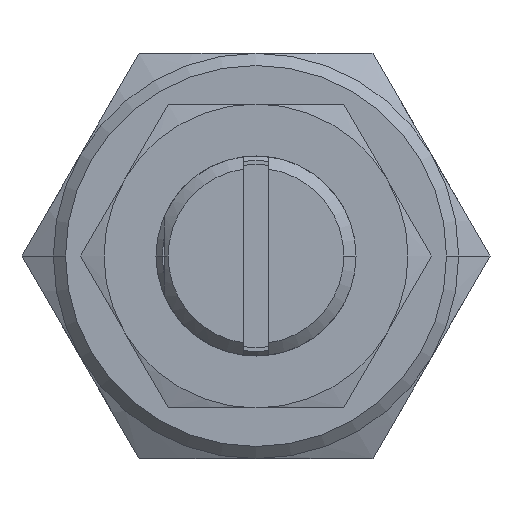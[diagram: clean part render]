
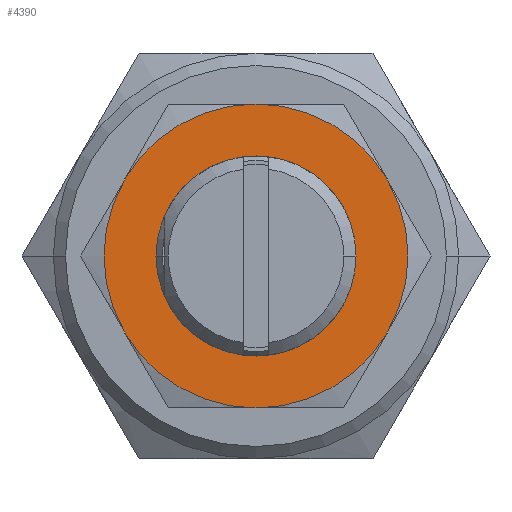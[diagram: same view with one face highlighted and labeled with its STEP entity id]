
A CAD part, left-side view. The second image highlights one B-rep face of the part: STEP entity #4390.
In plain terms, the highlighted planar face has unit normal (-1, 0, 0).
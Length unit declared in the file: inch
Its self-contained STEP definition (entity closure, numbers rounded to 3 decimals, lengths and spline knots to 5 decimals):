
#1662=CARTESIAN_POINT('',(-1.546,0.24371,0.186));
#1663=VERTEX_POINT('',#1662);
#1679=CARTESIAN_POINT('',(-1.546,-0.24371,0.186));
#1680=VERTEX_POINT('',#1679);
#1687=CARTESIAN_POINT('',(-1.546,0.0,0.186));
#1688=DIRECTION('',(-1.0,0.0,0.0));
#1689=DIRECTION('',(0.0,1.0,0.0));
#1690=AXIS2_PLACEMENT_3D('',#1687,#1688,#1689);
#1691=CIRCLE('',#1690,0.24371);
#1692=EDGE_CURVE('',#1680,#1663,#1691,.T.);
#4319=CARTESIAN_POINT('',(-1.546,0.,0.186));
#4320=DIRECTION('',(-1.0,0.0,0.0));
#4321=DIRECTION('',(0.0,0.0,1.0));
#4322=AXIS2_PLACEMENT_3D('',#4319,#4320,#4321);
#4323=PLANE('',#4322);
#4324=CARTESIAN_POINT('',(-1.546,0.,0.561));
#4325=VERTEX_POINT('',#4324);
#4326=CARTESIAN_POINT('',(-1.546,0.32476,0.3735));
#4327=VERTEX_POINT('',#4326);
#4328=CARTESIAN_POINT('',(-1.546,0.,0.186));
#4329=DIRECTION('',(-1.0,0.0,0.0));
#4330=DIRECTION('',(0.0,0.0,1.0));
#4331=AXIS2_PLACEMENT_3D('',#4328,#4329,#4330);
#4332=CIRCLE('',#4331,0.375);
#4333=EDGE_CURVE('',#4325,#4327,#4332,.T.);
#4334=ORIENTED_EDGE('',*,*,#4333,.T.);
#4335=CARTESIAN_POINT('',(-1.546,0.32476,-0.0015));
#4336=VERTEX_POINT('',#4335);
#4337=CARTESIAN_POINT('',(-1.546,0.,0.186));
#4338=DIRECTION('',(-1.0,0.0,0.0));
#4339=DIRECTION('',(0.0,0.0,1.0));
#4340=AXIS2_PLACEMENT_3D('',#4337,#4338,#4339);
#4341=CIRCLE('',#4340,0.375);
#4342=EDGE_CURVE('',#4327,#4336,#4341,.T.);
#4343=ORIENTED_EDGE('',*,*,#4342,.T.);
#4344=CARTESIAN_POINT('',(-1.546,0.,-0.189));
#4345=VERTEX_POINT('',#4344);
#4346=CARTESIAN_POINT('',(-1.546,0.,0.186));
#4347=DIRECTION('',(-1.0,0.0,0.0));
#4348=DIRECTION('',(0.0,0.0,1.0));
#4349=AXIS2_PLACEMENT_3D('',#4346,#4347,#4348);
#4350=CIRCLE('',#4349,0.375);
#4351=EDGE_CURVE('',#4336,#4345,#4350,.T.);
#4352=ORIENTED_EDGE('',*,*,#4351,.T.);
#4353=CARTESIAN_POINT('',(-1.546,-0.32476,-0.0015));
#4354=VERTEX_POINT('',#4353);
#4355=CARTESIAN_POINT('',(-1.546,0.,0.186));
#4356=DIRECTION('',(-1.0,0.0,0.0));
#4357=DIRECTION('',(0.0,0.0,1.0));
#4358=AXIS2_PLACEMENT_3D('',#4355,#4356,#4357);
#4359=CIRCLE('',#4358,0.375);
#4360=EDGE_CURVE('',#4345,#4354,#4359,.T.);
#4361=ORIENTED_EDGE('',*,*,#4360,.T.);
#4362=CARTESIAN_POINT('',(-1.546,-0.32476,0.3735));
#4363=VERTEX_POINT('',#4362);
#4364=CARTESIAN_POINT('',(-1.546,0.,0.186));
#4365=DIRECTION('',(-1.0,0.0,0.0));
#4366=DIRECTION('',(0.0,0.0,1.0));
#4367=AXIS2_PLACEMENT_3D('',#4364,#4365,#4366);
#4368=CIRCLE('',#4367,0.375);
#4369=EDGE_CURVE('',#4354,#4363,#4368,.T.);
#4370=ORIENTED_EDGE('',*,*,#4369,.T.);
#4371=CARTESIAN_POINT('',(-1.546,0.,0.186));
#4372=DIRECTION('',(-1.0,0.0,0.0));
#4373=DIRECTION('',(0.0,0.0,1.0));
#4374=AXIS2_PLACEMENT_3D('',#4371,#4372,#4373);
#4375=CIRCLE('',#4374,0.375);
#4376=EDGE_CURVE('',#4363,#4325,#4375,.T.);
#4377=ORIENTED_EDGE('',*,*,#4376,.T.);
#4378=EDGE_LOOP('',(#4334,#4343,#4352,#4361,#4370,#4377));
#4379=FACE_OUTER_BOUND('',#4378,.T.);
#4380=ORIENTED_EDGE('',*,*,#1692,.F.);
#4381=CARTESIAN_POINT('',(-1.546,0.0,0.186));
#4382=DIRECTION('',(-1.0,0.0,0.0));
#4383=DIRECTION('',(0.0,1.0,0.0));
#4384=AXIS2_PLACEMENT_3D('',#4381,#4382,#4383);
#4385=CIRCLE('',#4384,0.24371);
#4386=EDGE_CURVE('',#1663,#1680,#4385,.T.);
#4387=ORIENTED_EDGE('',*,*,#4386,.F.);
#4388=EDGE_LOOP('',(#4380,#4387));
#4389=FACE_BOUND('',#4388,.T.);
#4390=ADVANCED_FACE('',(#4379,#4389),#4323,.T.);
